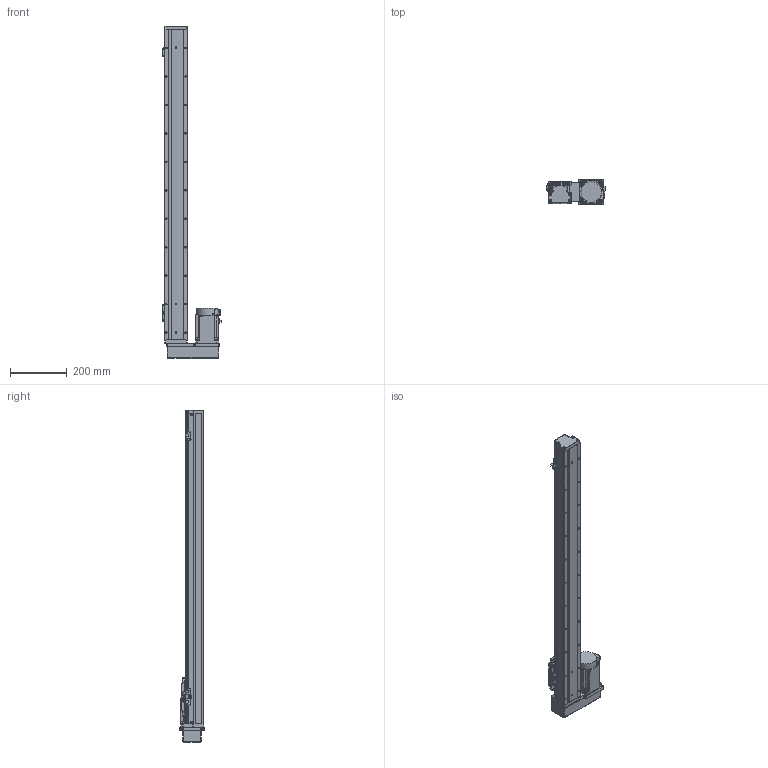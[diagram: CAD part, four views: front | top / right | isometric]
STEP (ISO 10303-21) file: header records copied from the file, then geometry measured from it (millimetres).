
FILE_DESCRIPTION (( 'STEP AP203' ), '1' );
FILE_NAME ('GTH8-900-BR-M75-C4.step', '2023-02-14T02:35:15', ( '微软用户' ), ( '微软中国' ), 'SwSTEP 2.0', 'SolidWorks 2020', '' );
FILE_SCHEMA (( 'CONFIG_CONTROL_DESIGN' ));
Length unit declared in the file: millimetre
Products named in the file (18): GBT 70.1-M4×16; CTHA86-035; hg-kn73j_-s100; GTH80-004; GTH80-028; GTH8-900-BR-M75-C4; GTH80-006; GTH50-024; GTH80-013; GTH50-023; GBT 70.3-M3℅6; GBT96.1-2002 3×0.8; GTH80-022; BTH-M3X5X6; GTH80-001_900; GBT 70.1-M3℅6; CTHA86-015-3_CTHA86-015-4; GTH80-003
Assembly tree (57 placements, depth 2):
  GTH8-900-BR-M75-C4
    GTH80-001_900
    GTH80-003
    GTH80-004
    GTH80-006
    GTH80-013
    GBT 70.3-M3℅6  x4
    GTH80-022
    GBT 70.1-M3℅6  x14
    GBT 70.1-M4×16  x8
    GTH80-028  x2
    GTH50-024  x3
    GTH50-023  x3
    GBT96.1-2002 3×0.8  x6
    BTH-M3X5X6  x8
    CTHA86-015-3_CTHA86-015-4
    CTHA86-035
    hg-kn73j_-s100
Bounding box: 204.7 x 87 x 1166 mm (x, y, z)
Volume: 6264247.2 mm3; surface area: 605998.2 mm2
Topology: 59 solids, 59 shells, 2207 faces, 5130 edges, 3144 vertices
Faces by surface type: plane 1153, cylinder 639, cone 243, torus 158, sphere 12, bspline 2
Entity records: 40032 total; most frequent: CARTESIAN_POINT 6719, DIRECTION 6613, ORIENTED_EDGE 6070, EDGE_CURVE 3035, AXIS2_PLACEMENT_3D 2338, LINE 1937, VECTOR 1937, VERTEX_POINT 1919
